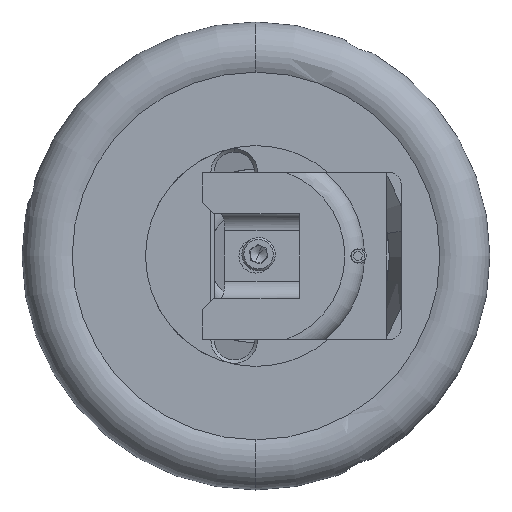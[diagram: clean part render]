
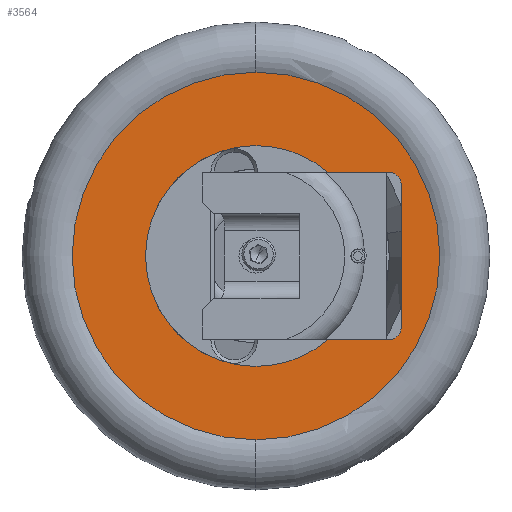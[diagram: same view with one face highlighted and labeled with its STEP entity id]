
A CAD part, left-side view. The second image highlights one B-rep face of the part: STEP entity #3564.
In plain terms, the highlighted planar face has unit normal (-1, 0, 0) as drawn and (1, 0, 0) by its records, which use the part's own axes.
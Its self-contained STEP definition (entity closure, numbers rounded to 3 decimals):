
#2773=CARTESIAN_POINT('',(-0.5,0.,0.));
#2774=DIRECTION('',(-1.,0.,0.));
#2775=DIRECTION('',(0.,0.,1.));
#2776=AXIS2_PLACEMENT_3D('',#2773,#2774,#2775);
#2778=CARTESIAN_POINT('',(-0.5,0.,0.));
#2779=DIRECTION('',(-1.,0.,0.));
#2780=DIRECTION('',(0.,0.,-1.));
#2781=AXIS2_PLACEMENT_3D('',#2778,#2779,#2780);
#2783=DIRECTION('',(0.,1.,0.));
#2784=VECTOR('',#2783,18.076);
#2785=CARTESIAN_POINT('',(-0.5,-39.5,-25.1));
#2786=LINE('',#2785,#2784);
#2787=CARTESIAN_POINT('',(-0.5,0.,0.));
#2788=DIRECTION('',(1.,0.,0.));
#2789=DIRECTION('',(0.,-0.649,-0.761));
#2790=AXIS2_PLACEMENT_3D('',#2787,#2788,#2789);
#2792=CARTESIAN_POINT('',(-0.5,0.,0.));
#2793=DIRECTION('',(1.,0.,0.));
#2794=DIRECTION('',(0.,0.,-1.));
#2795=AXIS2_PLACEMENT_3D('',#2792,#2793,#2794);
#2797=CARTESIAN_POINT('',(-0.5,0.,0.));
#2798=DIRECTION('',(1.,0.,0.));
#2799=DIRECTION('',(0.,0.,1.));
#2800=AXIS2_PLACEMENT_3D('',#2797,#2798,#2799);
#2802=DIRECTION('',(0.,-1.,0.));
#2803=VECTOR('',#2802,18.076);
#2804=CARTESIAN_POINT('',(-0.5,-21.424,25.1));
#2805=LINE('',#2804,#2803);
#2806=CARTESIAN_POINT('',(-0.5,-39.5,21.1));
#2807=DIRECTION('',(1.,0.,0.));
#2808=DIRECTION('',(0.,0.,1.));
#2809=AXIS2_PLACEMENT_3D('',#2806,#2807,#2808);
#2811=DIRECTION('',(0.,0.,-1.));
#2812=VECTOR('',#2811,42.2);
#2813=CARTESIAN_POINT('',(-0.5,-43.5,21.1));
#2814=LINE('',#2813,#2812);
#2815=CARTESIAN_POINT('',(-0.5,-39.5,-21.1));
#2816=DIRECTION('',(1.,0.,0.));
#2817=DIRECTION('',(0.,-1.,0.));
#2818=AXIS2_PLACEMENT_3D('',#2815,#2816,#2817);
#3041=CARTESIAN_POINT('',(-0.5,-21.424,-25.1));
#3042=VERTEX_POINT('',#3041);
#3043=CARTESIAN_POINT('',(-0.5,-39.5,-25.1));
#3044=VERTEX_POINT('',#3043);
#3076=CARTESIAN_POINT('',(-0.5,-39.5,25.1));
#3077=VERTEX_POINT('',#3076);
#3078=CARTESIAN_POINT('',(-0.5,-21.424,25.1));
#3079=VERTEX_POINT('',#3078);
#3125=CARTESIAN_POINT('',(-0.5,0.,-55.));
#3126=CARTESIAN_POINT('',(-0.5,0.,55.));
#3127=VERTEX_POINT('',#3125);
#3128=VERTEX_POINT('',#3126);
#3129=CARTESIAN_POINT('',(-0.5,0.,-33.));
#3130=VERTEX_POINT('',#3129);
#3131=CARTESIAN_POINT('',(-0.5,0.,33.));
#3132=VERTEX_POINT('',#3131);
#3133=CARTESIAN_POINT('',(-0.5,-43.5,21.1));
#3134=VERTEX_POINT('',#3133);
#3135=CARTESIAN_POINT('',(-0.5,-43.5,-21.1));
#3136=VERTEX_POINT('',#3135);
#3538=CARTESIAN_POINT('',(-0.5,33.,0.));
#3539=DIRECTION('',(1.,0.,0.));
#3540=DIRECTION('',(0.,0.,-1.));
#3541=AXIS2_PLACEMENT_3D('',#3538,#3539,#3540);
#3542=PLANE('',#3541);
#3544=ORIENTED_EDGE('',*,*,#3543,.T.);
#3545=ORIENTED_EDGE('',*,*,#3528,.T.);
#3546=EDGE_LOOP('',(#3544,#3545));
#3547=FACE_OUTER_BOUND('',#3546,.F.);
#3548=ORIENTED_EDGE('',*,*,#3220,.T.);
#3550=ORIENTED_EDGE('',*,*,#3549,.T.);
#3552=ORIENTED_EDGE('',*,*,#3551,.T.);
#3554=ORIENTED_EDGE('',*,*,#3553,.T.);
#3555=ORIENTED_EDGE('',*,*,#3313,.T.);
#3557=ORIENTED_EDGE('',*,*,#3556,.T.);
#3559=ORIENTED_EDGE('',*,*,#3558,.T.);
#3561=ORIENTED_EDGE('',*,*,#3560,.T.);
#3562=EDGE_LOOP('',(#3548,#3550,#3552,#3554,#3555,#3557,#3559,#3561));
#3563=FACE_BOUND('',#3562,.F.);
#3564=ADVANCED_FACE('',(#3547,#3563),#3542,.T.);
#2777=CIRCLE('',#2776,55.);
#2782=CIRCLE('',#2781,55.);
#2791=CIRCLE('',#2790,33.);
#2796=CIRCLE('',#2795,33.);
#2801=CIRCLE('',#2800,33.);
#2810=CIRCLE('',#2809,4.);
#2819=CIRCLE('',#2818,4.);
#3220=EDGE_CURVE('',#3044,#3042,#2786,.T.);
#3313=EDGE_CURVE('',#3079,#3077,#2805,.T.);
#3528=EDGE_CURVE('',#3127,#3128,#2782,.T.);
#3543=EDGE_CURVE('',#3128,#3127,#2777,.T.);
#3549=EDGE_CURVE('',#3042,#3130,#2791,.T.);
#3551=EDGE_CURVE('',#3130,#3132,#2796,.T.);
#3553=EDGE_CURVE('',#3132,#3079,#2801,.T.);
#3556=EDGE_CURVE('',#3077,#3134,#2810,.T.);
#3558=EDGE_CURVE('',#3134,#3136,#2814,.T.);
#3560=EDGE_CURVE('',#3136,#3044,#2819,.T.);
